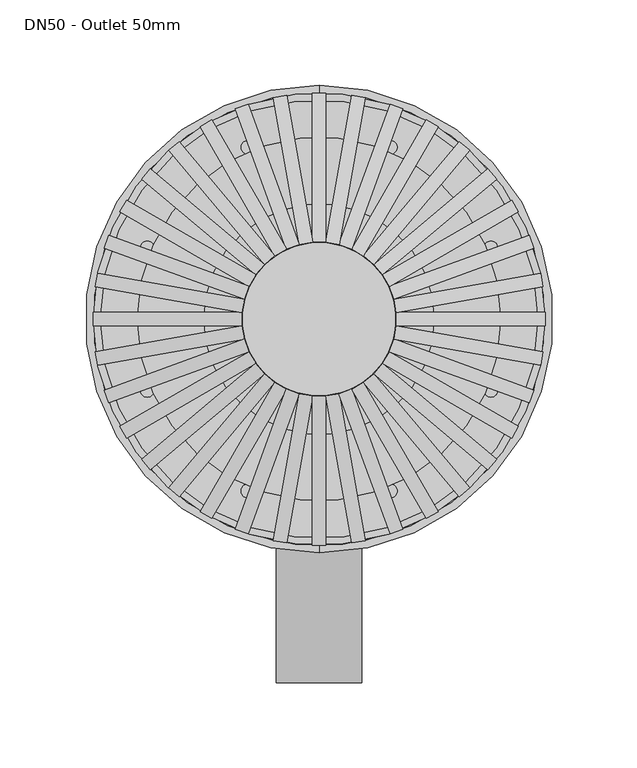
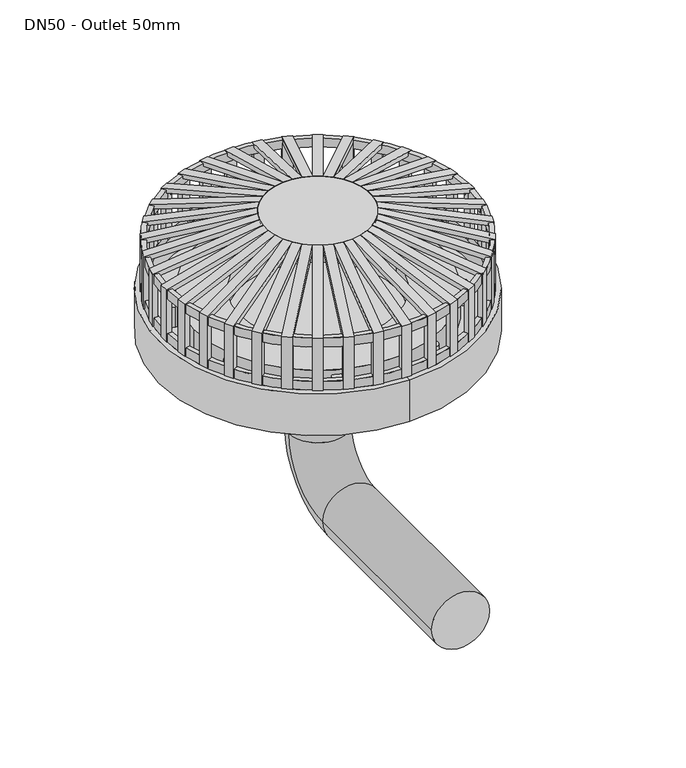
"""IFC4 building model written with IfcOpenShell, lengths in millimetres: sanitary terminal geometry, NLRS_52_PF_UN_Vacurain Flex flenstrechter_Dyka : DN50 - Outlet 50mm."""

from ifc_helpers import new_model, si_unit, point, frame, frame_2d, origin, origin_with_axes, origin_2d, place, context, project, spatial, polyline, circle_curve, ellipse_curve, trimmed, segment, composite_curve, outline, extrude, source, transform, mapped, element, save
from ifc_brep_helpers import plane_surface, cylinder_surface, revolved_surface, advanced_brep


def dn50_outlet_50mm_d0d6c5a2(model_context):
    return source(origin(), model_context, "Body", "SolidModel", [
        extrude(outline(polyline([(0.0, -4.0), (0.0, 0.0), (44.2715057, 0.0), (67.1387468, 84.544377), (71.0, 83.4999999), (47.3333333, -4.0), (0.0, -4.0)])), frame((-122.1185823, 40.1908179, 0.0), z_axis=(0.3420201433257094, 0.9396926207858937, 0.0), x_axis=(0.0, 0.0, 1.0)), (0.0, 0.0, 1.0), 8.0),
        extrude(outline(polyline([(0.0, -4.0), (0.0, 0.0), (44.2715057, 0.0), (67.1387468, 84.5443771), (71.0, 83.5), (47.3333333, -4.0), (0.0, -4.0)])), frame((-113.2842644, 60.7858984, 0.0), z_axis=(0.5000000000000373, 0.8660254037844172, 0.0), x_axis=(0.0, 0.0, 1.0)), (0.0, 0.0, 1.0), 8.0),
        extrude(outline(polyline([(0.0, -4.0), (0.0, 0.0), (44.2715057, 0.0), (67.1387468, 84.5443771), (71.0, 83.5), (47.3333333, -4.0), (0.0, -4.0)])), frame((-101.0078614, 79.5340301, 0.0), z_axis=(0.6427876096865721, 0.7660444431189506, 0.0), x_axis=(0.0, 0.0, 1.0)), (0.0, 0.0, 1.0), 8.0),
        extrude(outline(polyline([(0.0, -4.0000001), (0.0, 0.0), (44.2715057, 0.0), (67.1387468, 84.544377), (71.0, 83.5), (47.3333333, -4.0000001), (0.0, -4.0000001)])), frame((-85.6623856, 95.8655605, 0.0), z_axis=(0.7660444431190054, 0.6427876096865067, 0.0), x_axis=(0.0, 0.0, 1.0)), (0.0, 0.0, 1.0), 8.0),
        extrude(outline(polyline([(0.0, -4.0), (0.0, 0.0), (44.2715057, 0.0), (67.1387468, 84.5443771), (71.0, 83.5), (47.3333333, -4.0), (0.0, -4.0)])), frame((-67.7141016, 109.2842644, 0.0), z_axis=(0.8660254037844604, 0.49999999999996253, 0.0), x_axis=(0.0, 0.0, 1.0)), (0.0, 0.0, 1.0), 8.0),
        extrude(outline(polyline([(0.0, -4.0), (0.0, 0.0), (44.2715057, 0.0), (67.1387468, 84.5443771), (71.0, 83.5), (47.3333333, -4.0), (0.0, -4.0)])), frame((-47.7083589, 119.3824212, 0.0), z_axis=(0.9396926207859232, 0.34202014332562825, 0.0), x_axis=(0.0, 0.0, 1.0)), (0.0, 0.0, 1.0), 8.0),
        extrude(outline(polyline([(0.0, -4.0), (0.0, 0.0), (44.2715057, 0.0), (67.1387468, 84.5443772), (71.0, 83.5), (47.3333333, -4.0), (0.0, -4.0)])), frame((-26.2530218, 125.8532036, 0.0), z_axis=(0.9848077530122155, 0.17364817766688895, 0.0), x_axis=(0.0, 0.0, 1.0)), (0.0, 0.0, 1.0), 8.0),
        extrude(outline(polyline([(132.5, 0.0), (128.5, 0.0), (128.5, 44.2715057), (43.9556229, 67.1387468), (45.0, 71.0), (132.5, 47.3333333), (132.5, 0.0)])), frame((-4.0, 0.0, 0.0), z_axis=(1.0, 0.0, 0.0), x_axis=(0.0, 1.0, 0.0)), (0.0, 0.0, 1.0), 8.0),
        extrude(outline(polyline([(0.0, -4.0), (0.0, 0.0), (47.3333333, 0.0), (71.0, -87.5), (67.1387468, -88.5443772), (44.2715057, -4.0), (0.0, -4.0)])), frame((26.9476146, 129.7924346, 0.0), z_axis=(-0.9848077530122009, 0.1736481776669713, 0.0), x_axis=(0.0, 0.0, 1.0)), (0.0, 0.0, 1.0), 8.0),
        extrude(outline(polyline([(0.0, -4.0), (0.0, 0.0), (47.3333333, 0.0), (71.0, -87.5), (67.1387468, -88.5443771), (44.2715057, -4.0), (0.0, -4.0)])), frame((49.0764395, 123.1411917, 0.0), z_axis=(-0.9396926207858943, 0.3420201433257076, 0.0), x_axis=(0.0, 0.0, 1.0)), (0.0, 0.0, 1.0), 8.0),
        extrude(outline(polyline([(0.0, -4.0), (0.0, 0.0), (47.3333333, 0.0), (71.0, -87.5), (67.1387468, -88.544377), (44.2715057, -4.0), (0.0, -4.0)])), frame((69.7141016, 112.748366, 0.0), z_axis=(-0.8660254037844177, 0.5000000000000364, 0.0), x_axis=(0.0, 0.0, 1.0)), (0.0, 0.0, 1.0), 8.0),
        extrude(outline(polyline([(0.0, -4.0000001), (0.0, 0.0), (47.3333333, 0.0), (71.0, -87.5000001), (67.1387468, -88.5443771), (44.2715057, -4.0000001), (0.0, -4.0000001)])), frame((88.2335361, 98.9297383, 0.0), z_axis=(-0.7660444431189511, 0.6427876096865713, 0.0), x_axis=(0.0, 0.0, 1.0)), (0.0, 0.0, 1.0), 8.0),
        extrude(outline(polyline([(0.0, -4.0), (0.0, 0.0), (47.3333333, 0.0), (71.0, -87.5), (67.1387468, -88.5443771), (44.2715057, -4.0), (0.0, -4.0)])), frame((104.0720392, 82.1051805, 0.0), z_axis=(-0.642787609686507, 0.7660444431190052, 0.0), x_axis=(0.0, 0.0, 1.0)), (0.0, 0.0, 1.0), 8.0),
        extrude(outline(polyline([(0.0, -4.0), (0.0, 0.0), (47.3333333, 0.0), (71.0, -87.5), (67.1387468, -88.544377), (44.2715057, -4.0), (0.0, -4.0)])), frame((116.748366, 62.7858984, 0.0), z_axis=(-0.4999999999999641, 0.8660254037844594, 0.0), x_axis=(0.0, 0.0, 1.0)), (0.0, 0.0, 1.0), 8.0),
        extrude(outline(polyline([(0.0, -4.0), (0.0, 0.0), (47.3333333, 0.0), (71.0, -87.5), (67.1387468, -88.544377), (44.2715057, -4.0), (0.0, -4.0)])), frame((125.8773528, 41.5588985, 0.0), z_axis=(-0.3420201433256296, 0.9396926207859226, 0.0), x_axis=(0.0, 0.0, 1.0)), (0.0, 0.0, 1.0), 8.0),
        extrude(outline(polyline([(0.0, -4.0), (0.0, 0.0), (47.3333333, 0.0), (71.0, -87.5), (67.1387468, -88.544377), (44.2715057, -4.0), (0.0, -4.0)])), frame((131.18162, 19.0691525, 0.0), z_axis=(-0.17364817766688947, 0.9848077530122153, 0.0), x_axis=(0.0, 0.0, 1.0)), (0.0, 0.0, 1.0), 8.0),
        extrude(outline(polyline([(0.0, 128.5), (0.0, 132.5), (47.3333333, 132.5), (71.0, 45.0), (67.1387468, 43.9556229), (44.2715057, 128.5), (0.0, 128.5)])), frame((0.0, -4.0, 0.0), z_axis=(0.0, 1.0, 0.0), x_axis=(0.0, 0.0, 1.0)), (0.0, 0.0, 1.0), 8.0),
        extrude(outline(polyline([(0.0, -4.0), (0.0, 0.0), (47.3333333, 0.0), (71.0, -87.5), (67.1387468, -88.5443772), (44.2715057, -4.0), (0.0, -4.0)])), frame((129.7924346, -26.9476146, 0.0), z_axis=(0.17364817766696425, 0.9848077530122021, 0.0), x_axis=(0.0, 0.0, 1.0)), (0.0, 0.0, 1.0), 8.0),
        extrude(outline(polyline([(0.0, -4.0), (0.0, 0.0), (47.3333333, 0.0), (71.0, -87.5), (67.1387468, -88.5443771), (44.2715057, -4.0), (0.0, -4.0)])), frame((123.1411917, -49.0764395, 0.0), z_axis=(0.3420201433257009, 0.9396926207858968, 0.0), x_axis=(0.0, 0.0, 1.0)), (0.0, 0.0, 1.0), 8.0),
        extrude(outline(polyline([(0.0, -4.0), (0.0, 0.0), (47.3333333, 0.0), (71.0, -87.5), (67.1387468, -88.544377), (44.2715057, -4.0), (0.0, -4.0)])), frame((112.748366, -69.7141016, 0.0), z_axis=(0.5000000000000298, 0.8660254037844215, 0.0), x_axis=(0.0, 0.0, 1.0)), (0.0, 0.0, 1.0), 8.0),
        extrude(outline(polyline([(0.0, -4.0000001), (0.0, 0.0), (47.3333333, 0.0), (71.0, -87.5000001), (67.1387468, -88.5443771), (44.2715057, -4.0000001), (0.0, -4.0000001)])), frame((98.9297383, -88.2335361, 0.0), z_axis=(0.6427876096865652, 0.7660444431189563, 0.0), x_axis=(0.0, 0.0, 1.0)), (0.0, 0.0, 1.0), 8.0),
        extrude(outline(polyline([(0.0, -4.0), (0.0, 0.0), (47.3333333, 0.0), (71.0, -87.5), (67.1387468, -88.5443771), (44.2715057, -4.0), (0.0, -4.0)])), frame((82.1051805, -104.0720392, 0.0), z_axis=(0.7660444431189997, 0.6427876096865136, 0.0), x_axis=(0.0, 0.0, 1.0)), (0.0, 0.0, 1.0), 8.0),
        extrude(outline(polyline([(0.0, -4.0), (0.0, 0.0), (47.3333333, 0.0), (71.0, -87.5), (67.1387468, -88.544377), (44.2715057, -4.0), (0.0, -4.0)])), frame((62.7858984, -116.748366, 0.0), z_axis=(0.8660254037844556, 0.49999999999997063, 0.0), x_axis=(0.0, 0.0, 1.0)), (0.0, 0.0, 1.0), 8.0),
        extrude(outline(polyline([(0.0, -4.0), (0.0, 0.0), (47.3333333, 0.0), (71.0, -87.5), (67.1387468, -88.544377), (44.2715057, -4.0), (0.0, -4.0)])), frame((41.5588985, -125.8773528, 0.0), z_axis=(0.93969262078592, 0.3420201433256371, 0.0), x_axis=(0.0, 0.0, 1.0)), (0.0, 0.0, 1.0), 8.0),
        extrude(outline(polyline([(0.0, -4.0), (0.0, 0.0), (47.3333333, 0.0), (71.0, -87.5), (67.1387468, -88.544377), (44.2715057, -4.0), (0.0, -4.0)])), frame((19.0691525, -131.18162, 0.0), z_axis=(0.9848077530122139, 0.1736481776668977, 0.0), x_axis=(0.0, 0.0, 1.0)), (0.0, 0.0, 1.0), 8.0),
        extrude(outline(polyline([(-128.5, 0.0), (-132.5, 0.0), (-132.5, 47.3333333), (-45.0, 71.0), (-43.9556229, 67.1387468), (-128.5, 44.2715057), (-128.5, 0.0)])), frame((-4.0, 0.0, 0.0), z_axis=(1.0, 0.0, 0.0), x_axis=(0.0, 1.0, 0.0)), (0.0, 0.0, 1.0), 8.0),
        extrude(outline(polyline([(0.0, -4.0), (0.0, 0.0), (44.2715057, 0.0), (67.1387468, 84.5443771), (71.0, 83.5), (47.3333333, -4.0), (0.0, -4.0)])), frame((-18.3745598, -127.242389, 0.0), z_axis=(-0.9848077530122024, 0.1736481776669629, 0.0), x_axis=(0.0, 0.0, 1.0)), (0.0, 0.0, 1.0), 8.0),
        extrude(outline(polyline([(0.0, -4.0), (0.0, 0.0), (44.2715057, 0.0), (67.1387468, 84.544377), (71.0, 83.4999999), (47.3333333, -4.0), (0.0, -4.0)])), frame((-40.1908179, -122.1185823, 0.0), z_axis=(-0.9396926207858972, 0.3420201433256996, 0.0), x_axis=(0.0, 0.0, 1.0)), (0.0, 0.0, 1.0), 8.0),
        extrude(outline(polyline([(0.0, -4.0), (0.0, 0.0), (44.2715057, 0.0), (67.1387468, 84.5443771), (71.0, 83.5), (47.3333333, -4.0), (0.0, -4.0)])), frame((-60.7858984, -113.2842644, 0.0), z_axis=(-0.8660254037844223, 0.5000000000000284, 0.0), x_axis=(0.0, 0.0, 1.0)), (0.0, 0.0, 1.0), 8.0),
        extrude(outline(polyline([(0.0, -4.0), (0.0, 0.0), (44.2715057, 0.0), (67.1387468, 84.5443771), (71.0, 83.5), (47.3333333, -4.0), (0.0, -4.0)])), frame((-79.5340301, -101.0078614, 0.0), z_axis=(-0.7660444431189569, 0.6427876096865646, 0.0), x_axis=(0.0, 0.0, 1.0)), (0.0, 0.0, 1.0), 8.0),
        extrude(outline(polyline([(0.0, -4.0000001), (0.0, 0.0), (44.2715057, 0.0), (67.1387468, 84.544377), (71.0, 83.5), (47.3333333, -4.0000001), (0.0, -4.0000001)])), frame((-95.8655605, -85.6623856, 0.0), z_axis=(-0.6427876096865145, 0.7660444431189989, 0.0), x_axis=(0.0, 0.0, 1.0)), (0.0, 0.0, 1.0), 8.0),
        extrude(outline(polyline([(0.0, -4.0), (0.0, 0.0), (44.2715057, 0.0), (67.1387468, 84.5443771), (71.0, 83.5), (47.3333333, -4.0), (0.0, -4.0)])), frame((-109.2842644, -67.7141016, 0.0), z_axis=(-0.499999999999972, 0.8660254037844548, 0.0), x_axis=(0.0, 0.0, 1.0)), (0.0, 0.0, 1.0), 8.0),
        extrude(outline(polyline([(0.0, -4.0), (0.0, 0.0), (44.2715057, 0.0), (67.1387468, 84.5443771), (71.0, 83.5), (47.3333333, -4.0), (0.0, -4.0)])), frame((-119.3824212, -47.7083589, 0.0), z_axis=(-0.34202014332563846, 0.9396926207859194, 0.0), x_axis=(0.0, 0.0, 1.0)), (0.0, 0.0, 1.0), 8.0),
        extrude(outline(polyline([(0.0, -4.0), (0.0, 0.0), (44.2715057, 0.0), (67.1387468, 84.5443772), (71.0, 83.5), (47.3333333, -4.0), (0.0, -4.0)])), frame((-125.8532036, -26.2530218, 0.0), z_axis=(-0.1736481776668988, 0.9848077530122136, 0.0), x_axis=(0.0, 0.0, 1.0)), (0.0, 0.0, 1.0), 8.0),
        extrude(outline(polyline([(0.0, -4.0), (0.0, 0.0), (44.2715057, 0.0), (67.1387468, 84.5443771), (71.0, 83.5), (47.3333333, -4.0), (0.0, -4.0)])), frame((-127.242389, 18.3745598, 0.0), z_axis=(0.17364817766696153, 0.9848077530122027, 0.0), x_axis=(0.0, 0.0, 1.0)), (0.0, 0.0, 1.0), 8.0),
        extrude(outline(polyline([(0.0, -132.5), (0.0, -128.5), (44.2715057, -128.5), (67.1387468, -43.9556229), (71.0, -45.0), (47.3333333, -132.5), (0.0, -132.5)])), frame((0.0, -4.0, 0.0), z_axis=(0.0, 1.0, 0.0), x_axis=(0.0, 0.0, 1.0)), (0.0, 0.0, 1.0), 8.0),
        extrude(outline(composite_curve([segment(trimmed(circle_curve(origin_2d(), 45.0), [point((-45.0, 0.0))], [point((45.0, 0.0))], False, "CARTESIAN"), True, "CONTINUOUS"), segment(trimmed(circle_curve(origin_2d(), 45.0), [point((45.0, 0.0))], [point((-45.0, 0.0))], False, "CARTESIAN"), True, "CONTINUOUS")], self_intersect=False)), frame((0.0, 0.0, 63.0), z_axis=(0.0, 0.0, 1.0), x_axis=(1.0, 0.0, 0.0)), (0.0, 0.0, 1.0), 8.0),
        advanced_brep(
        [(-132.5, 0.0, 0.0), (132.5, 0.0, 0.0), (128.5, 0.0, 0.0), (-128.5, 0.0, 0.0), (-132.5, 0.0, 8.0), (132.5, 0.0, 8.0), (-128.5, 0.0, 8.0), (128.5, 0.0, 8.0)],
        [
            (0, 1, circle_curve(frame((0.0, 0.0, 0.0), z_axis=(0.0, 0.0, -1.0), x_axis=(1.0, 0.0, 0.0)), 132.5)),
            (1, 2),
            (2, 3, circle_curve(origin_with_axes(), 128.5)),
            (3, 0),
            (1, 0, circle_curve(frame((0.0, 0.0, 0.0), z_axis=(0.0, 0.0, -1.0), x_axis=(1.0, 0.0, 0.0)), 132.5)),
            (3, 2, circle_curve(origin_with_axes(), 128.5)),
            (4, 5, circle_curve(frame((0.0, 0.0, 8.0), z_axis=(0.0, 0.0, -1.0), x_axis=(1.0, 0.0, 0.0)), 132.5)),
            (5, 1),
            (0, 4),
            (5, 4, circle_curve(frame((0.0, 0.0, 8.0), z_axis=(0.0, 0.0, -1.0), x_axis=(1.0, 0.0, 0.0)), 132.5)),
            (6, 7, circle_curve(frame((0.0, 0.0, 8.0), z_axis=(0.0, 0.0, -1.0), x_axis=(1.0, 0.0, 0.0)), 128.5)),
            (7, 5),
            (4, 6),
            (7, 6, circle_curve(frame((0.0, 0.0, 8.0), z_axis=(0.0, 0.0, -1.0), x_axis=(1.0, 0.0, 0.0)), 128.5)),
            (2, 7),
            (6, 3),
        ],
        [
            plane_surface(frame((0.0, 0.0, 0.0), z_axis=(0.0, 0.0, -1.0), x_axis=(1.0, 0.0, 0.0))),
            cylinder_surface(frame((0.0, 0.0, 2214.3150031), z_axis=(0.0, 0.0, 1.0), x_axis=(1.0, 0.0, 0.0)), 132.5),
            plane_surface(frame((0.0, 0.0, 8.0), z_axis=(0.0, 0.0, 1.0), x_axis=(1.0, 0.0, 0.0))),
            revolved_surface(polyline([(128.5, 0.0, 8.0), (128.5, 0.0, 0.0)]), (0.0, 0.0, 2214.3150031), (0.0, 0.0, 1.0)),
        ],
        [
            (0, [[1, 2, 3, 4]]),
            (0, [[5, -4, 6, -2]]),
            (1, [[7, 8, -1, 9]]),
            (1, [[10, -9, -5, -8]]),
            (2, [[11, 12, -7, 13]]),
            (2, [[14, -13, -10, -12]]),
            (3, [[-3, 15, -11, 16]]),
            (3, [[-6, -16, -14, -15]]),
        ],
    ),
        advanced_brep(
        [(-132.5, 0.0, 39.3333333), (132.5, 0.0, 39.3333333), (128.5, 0.0, 39.3333333), (-128.5, 0.0, 39.3333333), (-132.5, 0.0, 47.3333333), (132.5, 0.0, 47.3333333), (-128.5, 0.0, 47.3333333), (128.5, 0.0, 47.3333333)],
        [
            (0, 1, circle_curve(frame((0.0, 0.0, 39.3333333), z_axis=(0.0, 0.0, -1.0), x_axis=(1.0, 0.0, 0.0)), 132.5)),
            (1, 2),
            (2, 3, circle_curve(frame((0.0, 0.0, 39.3333333), z_axis=(0.0, 0.0, 1.0), x_axis=(1.0, 0.0, 0.0)), 128.5)),
            (3, 0),
            (1, 0, circle_curve(frame((0.0, 0.0, 39.3333333), z_axis=(0.0, 0.0, -1.0), x_axis=(1.0, 0.0, 0.0)), 132.5)),
            (3, 2, circle_curve(frame((0.0, 0.0, 39.3333333), z_axis=(0.0, 0.0, 1.0), x_axis=(1.0, 0.0, 0.0)), 128.5)),
            (4, 5, circle_curve(frame((0.0, 0.0, 47.3333333), z_axis=(0.0, 0.0, -1.0), x_axis=(1.0, 0.0, 0.0)), 132.5)),
            (5, 1),
            (0, 4),
            (5, 4, circle_curve(frame((0.0, 0.0, 47.3333333), z_axis=(0.0, 0.0, -1.0), x_axis=(1.0, 0.0, 0.0)), 132.5)),
            (6, 7, circle_curve(frame((0.0, 0.0, 47.3333333), z_axis=(0.0, 0.0, -1.0), x_axis=(1.0, 0.0, 0.0)), 128.5)),
            (7, 5),
            (4, 6),
            (7, 6, circle_curve(frame((0.0, 0.0, 47.3333333), z_axis=(0.0, 0.0, -1.0), x_axis=(1.0, 0.0, 0.0)), 128.5)),
            (2, 7),
            (6, 3),
        ],
        [
            plane_surface(frame((0.0, 0.0, 39.3333333), z_axis=(0.0, 0.0, -1.0), x_axis=(1.0, 0.0, 0.0))),
            cylinder_surface(frame((0.0, 0.0, 2214.3150031), z_axis=(0.0, 0.0, 1.0), x_axis=(1.0, 0.0, 0.0)), 132.5),
            plane_surface(frame((0.0, 0.0, 47.3333333), z_axis=(0.0, 0.0, 1.0), x_axis=(1.0, 0.0, 0.0))),
            revolved_surface(polyline([(128.5, 0.0, 47.33333330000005), (128.5, 0.0, 39.33333330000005)]), (0.0, 0.0, 2214.3150031), (0.0, 0.0, 1.0)),
        ],
        [
            (0, [[1, 2, 3, 4]]),
            (0, [[5, -4, 6, -2]]),
            (1, [[7, 8, -1, 9]]),
            (1, [[10, -9, -5, -8]]),
            (2, [[11, 12, -7, 13]]),
            (2, [[14, -13, -10, -12]]),
            (3, [[-3, 15, -11, 16]]),
            (3, [[-6, -16, -14, -15]]),
        ],
    ),
        extrude(outline(composite_curve([segment(trimmed(circle_curve(origin_2d(), 106.5), [point((-106.5, 0.0))], [point((106.5, 0.0))], False, "CARTESIAN"), True, "CONTINUOUS"), segment(trimmed(circle_curve(origin_2d(), 106.5), [point((106.5, 0.0))], [point((-106.5, 0.0))], False, "CARTESIAN"), True, "CONTINUOUS")], self_intersect=False), holes=[composite_curve([segment(trimmed(circle_curve(origin_2d(), 67.5), [point((-67.5, 0.0))], [point((67.5, 0.0))], True, "CARTESIAN"), True, "CONTINUOUS"), segment(trimmed(circle_curve(origin_2d(), 67.5), [point((67.5, 0.0))], [point((-67.5, 0.0))], True, "CARTESIAN"), True, "CONTINUOUS")], self_intersect=False)]), frame((0.0, 0.0, -23.0), z_axis=(0.0, 0.0, 1.0), x_axis=(1.0, 0.0, 0.0)), (0.0, 0.0, 1.0), 23.0),
        advanced_brep(
        [(0.0, 137.0, 0.0), (0.0, -137.0, 0.0), (0.0, -132.5, 0.0), (0.0, 132.5, 0.0), (0.0, 93.25, -38.0), (0.0, -93.25, -38.0), (0.0, -137.0, -38.0), (0.0, 137.0, -38.0), (0.0, 25.0, -64.0), (0.0, -25.0, -64.0), (0.0, 0.0, -64.0), (0.0, -132.5, -23.0), (0.0, 132.5, -23.0)],
        [
            (0, 1, circle_curve(frame((0.0, 0.0, 0.0), z_axis=(0.0, 0.0, 1.0), x_axis=(0.0, -1.0, 0.0)), 137.0)),
            (1, 2),
            (2, 3, circle_curve(frame((0.0, 0.0, 0.0), z_axis=(0.0, 0.0, -1.0), x_axis=(0.0, 1.0, 0.0)), 132.5)),
            (3, 0),
            (1, 0, circle_curve(frame((0.0, 0.0, 0.0), z_axis=(0.0, 0.0, 1.0), x_axis=(0.0, -1.0, 0.0)), 137.0)),
            (3, 2, circle_curve(frame((0.0, 0.0, 0.0), z_axis=(0.0, 0.0, -1.0), x_axis=(0.0, 1.0, 0.0)), 132.5)),
            (4, 5, circle_curve(frame((0.0, 0.0, -38.0), z_axis=(0.0, 0.0, 1.0), x_axis=(0.0, -1.0, 0.0)), 93.25)),
            (5, 6),
            (6, 7, circle_curve(frame((0.0, 0.0, -38.0), z_axis=(0.0, 0.0, -1.0), x_axis=(0.0, -1.0, 0.0)), 137.0)),
            (7, 4),
            (5, 4, circle_curve(frame((0.0, 0.0, -38.0), z_axis=(0.0, 0.0, 1.0), x_axis=(0.0, -1.0, 0.0)), 93.25)),
            (7, 6, circle_curve(frame((0.0, 0.0, -38.0), z_axis=(0.0, 0.0, -1.0), x_axis=(0.0, -1.0, 0.0)), 137.0)),
            (4, 8),
            (8, 9, circle_curve(frame((0.0, 0.0, -64.0), z_axis=(0.0, 0.0, 1.0), x_axis=(0.0, -1.0, 0.0)), 25.0)),
            (9, 5),
            (9, 8, circle_curve(frame((0.0, 0.0, -64.0), z_axis=(0.0, 0.0, 1.0), x_axis=(0.0, -1.0, 0.0)), 25.0)),
            (0, 7),
            (6, 1),
            (8, 10),
            (10, 9),
            (11, 12, circle_curve(frame((0.0, 0.0, -23.0), z_axis=(0.0, 0.0, 1.0), x_axis=(0.0, 1.0, 0.0)), 132.5)),
            (12, 11, circle_curve(frame((0.0, 0.0, -23.0), z_axis=(0.0, 0.0, 1.0), x_axis=(0.0, 1.0, 0.0)), 132.5)),
            (11, 2),
            (3, 12),
        ],
        [
            plane_surface(frame((0.0, 0.0, 0.0), z_axis=(0.0, 0.0, 1.0), x_axis=(0.0, -1.0, 0.0))),
            plane_surface(frame((0.0, 0.0, -38.0), z_axis=(0.0, 0.0, -1.0), x_axis=(0.0, -1.0, 0.0))),
            revolved_surface(polyline([(0.0, -93.25, -38.0), (0.0, -25.0, -64.0)]), (0.0, 0.0, 2214.3150031), (0.0, 0.0, -1.0)),
            cylinder_surface(frame((0.0, 0.0, 2214.3150031), z_axis=(0.0, 0.0, -1.0), x_axis=(0.0, -1.0, 0.0)), 137.0),
            plane_surface(frame((0.0, 0.0, -64.0), z_axis=(0.0, 0.0, -1.0), x_axis=(0.0, -1.0, 0.0))),
            plane_surface(frame((0.0, 132.5, -23.0), z_axis=(0.0, 0.0, 1.0), x_axis=(1.0, 0.0, 0.0))),
            revolved_surface(polyline([(0.0, 132.5, 0.0), (0.0, 132.5, -23.0)]), (0.0, 0.0, -23.0), (0.0, 0.0, 1.0)),
        ],
        [
            (0, [[1, 2, 3, 4]]),
            (0, [[5, -4, 6, -2]]),
            (1, [[7, 8, 9, 10]]),
            (1, [[-8, 11, -10, 12]]),
            (2, [[-7, 13, 14, 15]]),
            (2, [[-11, -15, 16, -13]]),
            (3, [[-1, 17, -9, 18]]),
            (3, [[-5, -18, -12, -17]]),
            (4, [[-14, 19, 20]]),
            (4, [[-16, -20, -19]]),
            (5, [[21, 22]]),
            (6, [[-21, 23, -6, 24]]),
            (6, [[-22, -24, -3, -23]]),
        ],
    ),
        advanced_brep(
        [(25.0, 0.0, -64.0), (-25.0, 0.0, -64.0), (-25.0, 0.0, -123.0), (25.0, 0.0, -123.0), (25.0, -50.0, -173.0), (-25.0, -50.0, -173.0), (-25.0, -213.0, -173.0), (25.0, -213.0, -173.0)],
        [
            (0, 1, circle_curve(frame((0.0, 0.0, -64.0), z_axis=(0.0, 0.0, -1.0), x_axis=(1.0, 0.0, 0.0)), 25.0)),
            (1, 2),
            (2, 3, circle_curve(frame((0.0, 0.0, -123.0), z_axis=(0.0, 0.0, 1.0), x_axis=(1.0, 0.0, 0.0)), 25.0)),
            (3, 0),
            (1, 0, circle_curve(frame((0.0, 0.0, -64.0), z_axis=(0.0, 0.0, -1.0), x_axis=(1.0, 0.0, 0.0)), 25.0)),
            (3, 2, circle_curve(frame((0.0, 0.0, -123.0), z_axis=(0.0, 0.0, 1.0), x_axis=(1.0, 0.0, 0.0)), 25.0)),
            (4, 3, circle_curve(frame((25.0, -50.0, -123.0), z_axis=(1.0, 0.0, 0.0), x_axis=(0.0, 1.0, 0.0)), 50.0)),
            (2, 5, circle_curve(frame((-25.0, -50.0, -123.0), z_axis=(-1.0, 0.0, 0.0), x_axis=(0.0, 1.0, 0.0)), 50.0)),
            (5, 4, circle_curve(frame((0.0, -50.0, -173.0), z_axis=(0.0, 1.0, 0.0), x_axis=(1.0, 0.0, 0.0)), 25.0)),
            (4, 5, circle_curve(frame((0.0, -50.0, -173.0), z_axis=(0.0, 1.0, 0.0), x_axis=(1.0, 0.0, 0.0)), 25.0)),
            (6, 7, circle_curve(frame((0.0, -213.0, -173.0), z_axis=(0.0, -1.0, 0.0), x_axis=(1.0, 0.0, 0.0)), 25.0)),
            (7, 6, circle_curve(frame((0.0, -213.0, -173.0), z_axis=(0.0, -1.0, 0.0), x_axis=(1.0, 0.0, 0.0)), 25.0)),
            (5, 6),
            (7, 4),
        ],
        [
            cylinder_surface(frame((0.0, 0.0, -64.0), z_axis=(0.0, 0.0, 1.0), x_axis=(1.0, 0.0, 0.0)), 25.0),
            revolved_surface(trimmed(ellipse_curve(frame((0.0, 0.0, -123.0), z_axis=(0.0, 0.0, 1.0), x_axis=(1.0, 0.0, 0.0)), 25.0, 25.0), [point((-25.0, 0.0, -123.0))], [point((25.0, 0.0, -123.0))], True, "CARTESIAN"), (0.0, -50.0, -123.0), (-1.0, 0.0, 0.0)),
            revolved_surface(trimmed(ellipse_curve(frame((0.0, 0.0, -123.0), z_axis=(0.0, 0.0, 1.0), x_axis=(1.0, 0.0, 0.0)), 25.0, 25.0), [point((25.0, 0.0, -123.0))], [point((-25.0, 0.0, -123.0))], True, "CARTESIAN"), (0.0, -50.0, -123.0), (-1.0, 0.0, 0.0)),
            plane_surface(frame((0.0, -213.0, -173.0), z_axis=(0.0, -1.0, 0.0), x_axis=(1.0, 0.0, 0.0))),
            cylinder_surface(frame((0.0, -50.0, -173.0), z_axis=(0.0, 1.0, 0.0), x_axis=(1.0, 0.0, 0.0)), 25.0),
            plane_surface(frame((0.0, 0.0, -64.0), z_axis=(0.0, 0.0, 1.0), x_axis=(1.0, 0.0, 0.0))),
        ],
        [
            (0, [[1, 2, 3, 4]]),
            (0, [[5, -4, 6, -2]]),
            (1, [[7, -3, 8, 9]]),
            (2, [[-8, -6, -7, 10]]),
            (3, [[11, 12]]),
            (4, [[-9, 13, -12, 14]]),
            (4, [[-10, -14, -11, -13]]),
            (5, [[-1, -5]]),
        ],
    ),
        extrude(outline(composite_curve([segment(trimmed(circle_curve(frame_2d((-41.7124941, -100.702869)), 4.0), [point((-41.7124941, -104.702869))], [point((-41.7124941, -96.702869))], False, "CARTESIAN"), True, "CONTINUOUS"), segment(trimmed(circle_curve(frame_2d((-41.7124941, -100.702869)), 4.0), [point((-41.7124941, -96.702869))], [point((-41.7124941, -104.702869))], False, "CARTESIAN"), True, "CONTINUOUS")], self_intersect=False)), frame((0.0, 0.0, -24.0), z_axis=(0.0, 0.0, 1.0), x_axis=(1.0, 0.0, 0.0)), (0.0, 0.0, 1.0), 20.0),
        extrude(outline(composite_curve([segment(trimmed(circle_curve(frame_2d((41.7124941, -100.702869)), 4.0), [point((41.7124941, -104.702869))], [point((41.7124941, -96.702869))], False, "CARTESIAN"), True, "CONTINUOUS"), segment(trimmed(circle_curve(frame_2d((41.7124941, -100.702869)), 4.0), [point((41.7124941, -96.702869))], [point((41.7124941, -104.702869))], False, "CARTESIAN"), True, "CONTINUOUS")], self_intersect=False)), frame((0.0, 0.0, -24.0), z_axis=(0.0, 0.0, 1.0), x_axis=(1.0, 0.0, 0.0)), (0.0, 0.0, 1.0), 20.0),
        extrude(outline(composite_curve([segment(trimmed(circle_curve(frame_2d((-41.7124941, 100.702869)), 4.0), [point((-41.7124941, 96.702869))], [point((-41.7124941, 104.702869))], False, "CARTESIAN"), True, "CONTINUOUS"), segment(trimmed(circle_curve(frame_2d((-41.7124941, 100.702869)), 4.0), [point((-41.7124941, 104.702869))], [point((-41.7124941, 96.702869))], False, "CARTESIAN"), True, "CONTINUOUS")], self_intersect=False)), frame((0.0, 0.0, -24.0), z_axis=(0.0, 0.0, 1.0), x_axis=(1.0, 0.0, 0.0)), (0.0, 0.0, 1.0), 20.0),
        extrude(outline(composite_curve([segment(trimmed(circle_curve(frame_2d((41.7124941, 100.702869)), 4.0), [point((41.7124941, 96.702869))], [point((41.7124941, 104.702869))], False, "CARTESIAN"), True, "CONTINUOUS"), segment(trimmed(circle_curve(frame_2d((41.7124941, 100.702869)), 4.0), [point((41.7124941, 104.702869))], [point((41.7124941, 96.702869))], False, "CARTESIAN"), True, "CONTINUOUS")], self_intersect=False)), frame((0.0, 0.0, -24.0), z_axis=(0.0, 0.0, 1.0), x_axis=(1.0, 0.0, 0.0)), (0.0, 0.0, 1.0), 20.0),
        extrude(outline(composite_curve([segment(trimmed(circle_curve(frame_2d((100.702869, -41.7124941)), 4.0), [point((100.702869, -45.7124941))], [point((100.702869, -37.7124941))], False, "CARTESIAN"), True, "CONTINUOUS"), segment(trimmed(circle_curve(frame_2d((100.702869, -41.7124941)), 4.0), [point((100.702869, -37.7124941))], [point((100.702869, -45.7124941))], False, "CARTESIAN"), True, "CONTINUOUS")], self_intersect=False)), frame((0.0, 0.0, -24.0), z_axis=(0.0, 0.0, 1.0), x_axis=(1.0, 0.0, 0.0)), (0.0, 0.0, 1.0), 20.0),
        extrude(outline(composite_curve([segment(trimmed(circle_curve(frame_2d((100.702869, 41.7124941)), 4.0), [point((100.702869, 37.7124941))], [point((100.702869, 45.7124941))], False, "CARTESIAN"), True, "CONTINUOUS"), segment(trimmed(circle_curve(frame_2d((100.702869, 41.7124941)), 4.0), [point((100.702869, 45.7124941))], [point((100.702869, 37.7124941))], False, "CARTESIAN"), True, "CONTINUOUS")], self_intersect=False)), frame((0.0, 0.0, -24.0), z_axis=(0.0, 0.0, 1.0), x_axis=(1.0, 0.0, 0.0)), (0.0, 0.0, 1.0), 20.0),
        extrude(outline(composite_curve([segment(trimmed(circle_curve(frame_2d((-100.702869, -41.7124941)), 4.0), [point((-100.702869, -45.7124941))], [point((-100.702869, -37.7124941))], False, "CARTESIAN"), True, "CONTINUOUS"), segment(trimmed(circle_curve(frame_2d((-100.702869, -41.7124941)), 4.0), [point((-100.702869, -37.7124941))], [point((-100.702869, -45.7124941))], False, "CARTESIAN"), True, "CONTINUOUS")], self_intersect=False)), frame((0.0, 0.0, -24.0), z_axis=(0.0, 0.0, 1.0), x_axis=(1.0, 0.0, 0.0)), (0.0, 0.0, 1.0), 20.0),
        extrude(outline(composite_curve([segment(trimmed(circle_curve(frame_2d((-100.702869, 41.7124941)), 4.0), [point((-100.702869, 37.7124941))], [point((-100.702869, 45.7124941))], False, "CARTESIAN"), True, "CONTINUOUS"), segment(trimmed(circle_curve(frame_2d((-100.702869, 41.7124941)), 4.0), [point((-100.702869, 45.7124941))], [point((-100.702869, 37.7124941))], False, "CARTESIAN"), True, "CONTINUOUS")], self_intersect=False)), frame((0.0, 0.0, -24.0), z_axis=(0.0, 0.0, 1.0), x_axis=(1.0, 0.0, 0.0)), (0.0, 0.0, 1.0), 20.0),
    ])


if __name__ == "__main__":
    model = new_model("IFC4")
    model_context = context("Model", 3, world=origin())
    ifc_project = project(units=[si_unit("LENGTHUNIT", "METRE", prefix="MILLI")], contexts=[model_context])
    site = spatial("IfcSite", under=ifc_project)
    building = spatial("IfcBuilding", under=site)
    placement = place(None, origin())
    dn50_outlet_50mm_shape = dn50_outlet_50mm_d0d6c5a2(model_context)
    element("IfcSanitaryTerminal", 1, ObjectType="NLRS_52_PF_UN_Vacurain Flex flenstrechter_Dyka : DN50 - Outlet 50mm", at=placement, inside=building, context=model_context, shape_type="MappedRepresentation", body=[
        mapped(dn50_outlet_50mm_shape, transform((0.0, 0.0, 0.0), x_axis=(1.0, 0.0, 0.0), y_axis=(0.0, 1.0, 0.0), z_axis=(0.0, 0.0, 1.0))),
    ])
    save(model, "model.ifc")
